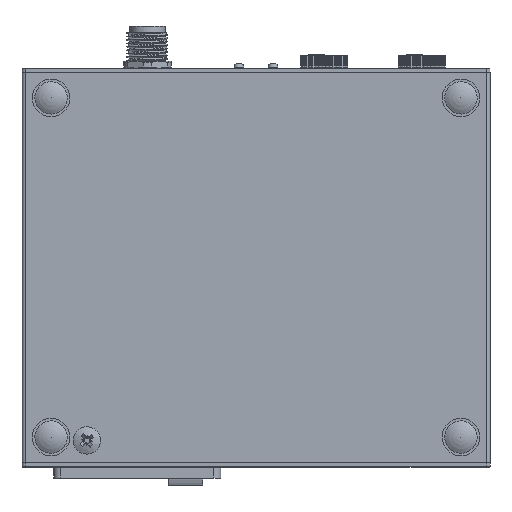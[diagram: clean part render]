
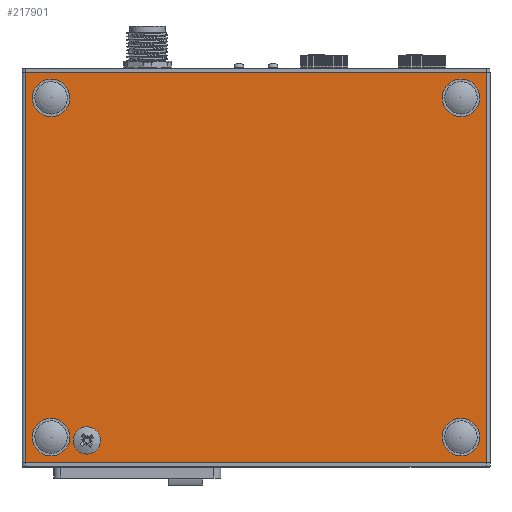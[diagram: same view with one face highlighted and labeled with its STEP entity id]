
A CAD part, front view. The second image highlights one B-rep face of the part: STEP entity #217901.
In plain terms, the highlighted planar face has unit normal (0, -1, 0).
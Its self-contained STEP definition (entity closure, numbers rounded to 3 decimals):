
#11409 = AXIS2_PLACEMENT_3D ( 'NONE', #171558, #71986, #146548 ) ;
#17592 = PLANE ( 'NONE',  #27134 ) ;
#18752 = FACE_OUTER_BOUND ( 'NONE', #58359, .T. ) ;
#19889 = DIRECTION ( 'NONE',  ( 0., 0., 1. ) ) ;
#27134 = AXIS2_PLACEMENT_3D ( 'NONE', #177579, #70943, #19889 ) ;
#27908 = LINE ( 'NONE', #227136, #221937 ) ;
#30808 = EDGE_CURVE ( 'NONE', #73922, #212036, #35254, .T. ) ;
#33162 = VERTEX_POINT ( 'NONE', #69784 ) ;
#35254 = LINE ( 'NONE', #147753, #97110 ) ;
#39367 = EDGE_CURVE ( 'NONE', #226261, #226261, #98534, .T. ) ;
#40605 = ORIENTED_EDGE ( 'NONE', *, *, #221265, .T. ) ;
#44608 = DIRECTION ( 'NONE',  ( 0., 0., 1. ) ) ;
#54493 = CARTESIAN_POINT ( 'NONE',  ( -122.178, -18.043, 57.235 ) ) ;
#55365 = DIRECTION ( 'NONE',  ( 1., 0., 0. ) ) ;
#58359 = EDGE_LOOP ( 'NONE', ( #201539, #40605, #60948, #210176 ) ) ;
#60948 = ORIENTED_EDGE ( 'NONE', *, *, #204987, .F. ) ;
#69784 = CARTESIAN_POINT ( 'NONE',  ( -121.178, -18.043, 57.235 ) ) ;
#70943 = DIRECTION ( 'NONE',  ( 0., 1., 0. ) ) ;
#71986 = DIRECTION ( 'NONE',  ( 0., -1., 0. ) ) ;
#72440 = LINE ( 'NONE', #126877, #160233 ) ;
#73413 = VECTOR ( 'NONE', #234702, 1000. ) ;
#73922 = VERTEX_POINT ( 'NONE', #143304 ) ;
#97110 = VECTOR ( 'NONE', #55365, 1000. ) ;
#98534 = CIRCLE ( 'NONE', #11409, 2. ) ;
#101235 = EDGE_LOOP ( 'NONE', ( #217363 ) ) ;
#125596 = CARTESIAN_POINT ( 'NONE',  ( 13.822, -18.043, -57.065 ) ) ;
#126877 = CARTESIAN_POINT ( 'NONE',  ( -121.178, -18.043, 57.235 ) ) ;
#143304 = CARTESIAN_POINT ( 'NONE',  ( -121.178, -18.043, -57.065 ) ) ;
#144006 = EDGE_CURVE ( 'NONE', #33162, #73922, #72440, .T. ) ;
#146548 = DIRECTION ( 'NONE',  ( 0., 0., -1. ) ) ;
#147753 = CARTESIAN_POINT ( 'NONE',  ( -122.178, -18.043, -57.065 ) ) ;
#160233 = VECTOR ( 'NONE', #199286, 1000. ) ;
#162353 = LINE ( 'NONE', #54493, #73413 ) ;
#164507 = FACE_BOUND ( 'NONE', #101235, .T. ) ;
#171558 = CARTESIAN_POINT ( 'NONE',  ( -103.178, -18.043, -50.565 ) ) ;
#171606 = CARTESIAN_POINT ( 'NONE',  ( -103.178, -18.043, -52.565 ) ) ;
#177579 = CARTESIAN_POINT ( 'NONE',  ( -122.178, -18.043, 57.235 ) ) ;
#195740 = CARTESIAN_POINT ( 'NONE',  ( 13.822, -18.043, 57.235 ) ) ;
#199286 = DIRECTION ( 'NONE',  ( 0., 0., -1. ) ) ;
#201539 = ORIENTED_EDGE ( 'NONE', *, *, #30808, .T. ) ;
#204987 = EDGE_CURVE ( 'NONE', #33162, #217467, #162353, .T. ) ;
#210176 = ORIENTED_EDGE ( 'NONE', *, *, #144006, .T. ) ;
#212036 = VERTEX_POINT ( 'NONE', #125596 ) ;
#217363 = ORIENTED_EDGE ( 'NONE', *, *, #39367, .F. ) ;
#217467 = VERTEX_POINT ( 'NONE', #195740 ) ;
#217901 = ADVANCED_FACE ( 'NONE', ( #164507, #18752 ), #17592, .F. ) ;
#221265 = EDGE_CURVE ( 'NONE', #212036, #217467, #27908, .T. ) ;
#221937 = VECTOR ( 'NONE', #44608, 1000. ) ;
#226261 = VERTEX_POINT ( 'NONE', #171606 ) ;
#227136 = CARTESIAN_POINT ( 'NONE',  ( 13.822, -18.043, 57.235 ) ) ;
#234702 = DIRECTION ( 'NONE',  ( 1., 0., 0. ) ) ;
